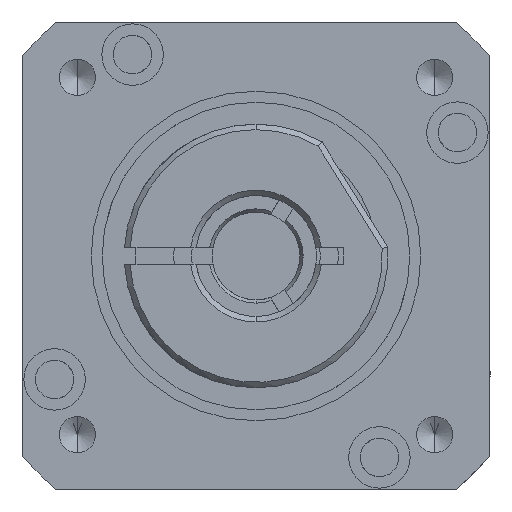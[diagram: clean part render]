
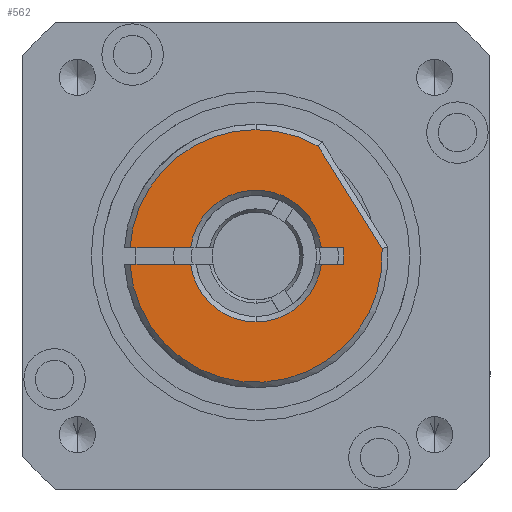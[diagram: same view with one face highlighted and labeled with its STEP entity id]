
A CAD part, front view. The second image highlights one B-rep face of the part: STEP entity #562.
In plain terms, the highlighted planar face has unit normal (0, -1, 0).
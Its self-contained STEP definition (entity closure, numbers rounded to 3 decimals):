
#62 = VERTEX_POINT ( 'NONE', #4499 ) ;
#90 = DIRECTION ( 'NONE',  ( 0., 1., 0. ) ) ;
#299 = CARTESIAN_POINT ( 'NONE',  ( -11.476, 5.2, -0.75 ) ) ;
#562 = ADVANCED_FACE ( 'NONE', ( #10019 ), #20720, .T. ) ;
#601 = CARTESIAN_POINT ( 'NONE',  ( 0., 5.2, 0. ) ) ;
#1276 = DIRECTION ( 'NONE',  ( 0., 1., 0. ) ) ;
#1960 = DIRECTION ( 'NONE',  ( 0., -1., 0. ) ) ;
#2092 = VERTEX_POINT ( 'NONE', #5692 ) ;
#2568 = VERTEX_POINT ( 'NONE', #34790 ) ;
#2614 = DIRECTION ( 'NONE',  ( 0., 0., -1. ) ) ;
#3069 = CARTESIAN_POINT ( 'NONE',  ( 5.5, 5.2, 0. ) ) ;
#3504 = EDGE_CURVE ( 'NONE', #2568, #15546, #8098, .T. ) ;
#3552 = DIRECTION ( 'NONE',  ( 0., 0., 1. ) ) ;
#3587 = CARTESIAN_POINT ( 'NONE',  ( 11.479, 5.2, 0.689 ) ) ;
#3826 = LINE ( 'NONE', #14940, #4768 ) ;
#4499 = CARTESIAN_POINT ( 'NONE',  ( 5.953, 5.2, -0.75 ) ) ;
#4517 = AXIS2_PLACEMENT_3D ( 'NONE', #33975, #20264, #2614 ) ;
#4768 = VECTOR ( 'NONE', #35473, 1000. ) ;
#5562 = VERTEX_POINT ( 'NONE', #33033 ) ;
#5692 = CARTESIAN_POINT ( 'NONE',  ( -5.953, 5.2, 0.75 ) ) ;
#5991 = DIRECTION ( 'NONE',  ( 0., -1., 0. ) ) ;
#6911 = CARTESIAN_POINT ( 'NONE',  ( -14.792, 5.2, 0.75 ) ) ;
#6983 = CARTESIAN_POINT ( 'NONE',  ( -5.953, 5.2, -0.75 ) ) ;
#7041 = CARTESIAN_POINT ( 'NONE',  ( 0., 5.2, 0. ) ) ;
#7053 = VERTEX_POINT ( 'NONE', #299 ) ;
#7059 = CARTESIAN_POINT ( 'NONE',  ( 0., 5.2, -6. ) ) ;
#7150 = CIRCLE ( 'NONE', #28020, 6. ) ;
#7180 = VERTEX_POINT ( 'NONE', #32930 ) ;
#7564 = LINE ( 'NONE', #3587, #36980 ) ;
#7993 = EDGE_CURVE ( 'NONE', #5562, #14485, #32973, .T. ) ;
#8098 = CIRCLE ( 'NONE', #15834, 11.5 ) ;
#8262 = ORIENTED_EDGE ( 'NONE', *, *, #3504, .T. ) ;
#8390 = EDGE_CURVE ( 'NONE', #62, #36149, #7150, .T. ) ;
#10007 = DIRECTION ( 'NONE',  ( 0., 0., 1. ) ) ;
#10019 = FACE_OUTER_BOUND ( 'NONE', #28812, .T. ) ;
#11237 = ORIENTED_EDGE ( 'NONE', *, *, #8390, .T. ) ;
#11639 = ORIENTED_EDGE ( 'NONE', *, *, #7993, .T. ) ;
#12137 = DIRECTION ( 'NONE',  ( 0., 0., -1. ) ) ;
#12367 = ORIENTED_EDGE ( 'NONE', *, *, #37929, .T. ) ;
#13129 = VERTEX_POINT ( 'NONE', #31254 ) ;
#13583 = ORIENTED_EDGE ( 'NONE', *, *, #17560, .T. ) ;
#14485 = VERTEX_POINT ( 'NONE', #18693 ) ;
#14664 = EDGE_CURVE ( 'NONE', #7180, #2568, #17004, .T. ) ;
#14940 = CARTESIAN_POINT ( 'NONE',  ( 8., 5.2, -0.75 ) ) ;
#15546 = VERTEX_POINT ( 'NONE', #15609 ) ;
#15609 = CARTESIAN_POINT ( 'NONE',  ( -11.476, 5.2, 0.75 ) ) ;
#15834 = AXIS2_PLACEMENT_3D ( 'NONE', #7041, #27637, #10007 ) ;
#15846 = VECTOR ( 'NONE', #16628, 1000. ) ;
#16628 = DIRECTION ( 'NONE',  ( 1., 0., 0. ) ) ;
#16777 = CIRCLE ( 'NONE', #17952, 6. ) ;
#16886 = EDGE_CURVE ( 'NONE', #13129, #7180, #7564, .T. ) ;
#17004 = CIRCLE ( 'NONE', #31408, 11.5 ) ;
#17560 = EDGE_CURVE ( 'NONE', #7053, #13129, #34198, .T. ) ;
#17730 = CARTESIAN_POINT ( 'NONE',  ( 0., 5.2, 0. ) ) ;
#17952 = AXIS2_PLACEMENT_3D ( 'NONE', #18915, #1276, #21875 ) ;
#18296 = AXIS2_PLACEMENT_3D ( 'NONE', #601, #21203, #3552 ) ;
#18693 = CARTESIAN_POINT ( 'NONE',  ( 8., 5.2, 0.75 ) ) ;
#18915 = CARTESIAN_POINT ( 'NONE',  ( 0., 5.2, 0. ) ) ;
#19567 = CARTESIAN_POINT ( 'NONE',  ( 0., 5.2, 0. ) ) ;
#20264 = DIRECTION ( 'NONE',  ( 0., 1., 0. ) ) ;
#20369 = EDGE_CURVE ( 'NONE', #26295, #7053, #27841, .T. ) ;
#20694 = DIRECTION ( 'NONE',  ( 0., 0., -1. ) ) ;
#20720 = PLANE ( 'NONE',  #27033 ) ;
#20761 = CARTESIAN_POINT ( 'NONE',  ( 8., 5.2, -0.75 ) ) ;
#21203 = DIRECTION ( 'NONE',  ( 0., -1., 0. ) ) ;
#21244 = DIRECTION ( 'NONE',  ( -0.53, 0., 0.848 ) ) ;
#21875 = DIRECTION ( 'NONE',  ( 0., 0., -1. ) ) ;
#22540 = EDGE_CURVE ( 'NONE', #15546, #2092, #31516, .T. ) ;
#22543 = DIRECTION ( 'NONE',  ( 0., 0., 1. ) ) ;
#23360 = EDGE_CURVE ( 'NONE', #38036, #62, #3826, .T. ) ;
#23779 = CARTESIAN_POINT ( 'NONE',  ( 8., 5.2, 0. ) ) ;
#24544 = ORIENTED_EDGE ( 'NONE', *, *, #36556, .T. ) ;
#24578 = DIRECTION ( 'NONE',  ( 1., 0., 0. ) ) ;
#25213 = DIRECTION ( 'NONE',  ( -1., 0., 0. ) ) ;
#25701 = LINE ( 'NONE', #23779, #32544 ) ;
#26295 = VERTEX_POINT ( 'NONE', #6983 ) ;
#26590 = DIRECTION ( 'NONE',  ( 0., 0., -1. ) ) ;
#27033 = AXIS2_PLACEMENT_3D ( 'NONE', #3069, #5991, #26590 ) ;
#27637 = DIRECTION ( 'NONE',  ( 0., -1., 0. ) ) ;
#27841 = LINE ( 'NONE', #28147, #34669 ) ;
#28020 = AXIS2_PLACEMENT_3D ( 'NONE', #17730, #90, #20694 ) ;
#28147 = CARTESIAN_POINT ( 'NONE',  ( 8., 5.2, -0.75 ) ) ;
#28812 = EDGE_LOOP ( 'NONE', ( #36309, #12367, #11639, #24544, #32391, #11237, #29822, #32120, #13583, #30669, #30973, #8262 ) ) ;
#29822 = ORIENTED_EDGE ( 'NONE', *, *, #34751, .T. ) ;
#30669 = ORIENTED_EDGE ( 'NONE', *, *, #16886, .T. ) ;
#30973 = ORIENTED_EDGE ( 'NONE', *, *, #14664, .T. ) ;
#31155 = CARTESIAN_POINT ( 'NONE',  ( -14.792, 5.2, 0.75 ) ) ;
#31254 = CARTESIAN_POINT ( 'NONE',  ( 11.479, 5.2, 0.689 ) ) ;
#31408 = AXIS2_PLACEMENT_3D ( 'NONE', #19567, #1960, #22543 ) ;
#31516 = LINE ( 'NONE', #31155, #15846 ) ;
#32084 = VECTOR ( 'NONE', #24578, 1000. ) ;
#32120 = ORIENTED_EDGE ( 'NONE', *, *, #20369, .T. ) ;
#32391 = ORIENTED_EDGE ( 'NONE', *, *, #23360, .T. ) ;
#32544 = VECTOR ( 'NONE', #12137, 1000. ) ;
#32930 = CARTESIAN_POINT ( 'NONE',  ( 5.651, 5.2, 10.016 ) ) ;
#32973 = LINE ( 'NONE', #6911, #32084 ) ;
#33033 = CARTESIAN_POINT ( 'NONE',  ( 5.953, 5.2, 0.75 ) ) ;
#33062 = CIRCLE ( 'NONE', #4517, 6. ) ;
#33975 = CARTESIAN_POINT ( 'NONE',  ( 0., 5.2, 0. ) ) ;
#34198 = CIRCLE ( 'NONE', #18296, 11.5 ) ;
#34669 = VECTOR ( 'NONE', #25213, 1000. ) ;
#34751 = EDGE_CURVE ( 'NONE', #36149, #26295, #16777, .T. ) ;
#34790 = CARTESIAN_POINT ( 'NONE',  ( 0., 5.2, 11.5 ) ) ;
#35473 = DIRECTION ( 'NONE',  ( -1., 0., 0. ) ) ;
#36149 = VERTEX_POINT ( 'NONE', #7059 ) ;
#36309 = ORIENTED_EDGE ( 'NONE', *, *, #22540, .T. ) ;
#36556 = EDGE_CURVE ( 'NONE', #14485, #38036, #25701, .T. ) ;
#36980 = VECTOR ( 'NONE', #21244, 1000. ) ;
#37929 = EDGE_CURVE ( 'NONE', #2092, #5562, #33062, .T. ) ;
#38036 = VERTEX_POINT ( 'NONE', #20761 ) ;
